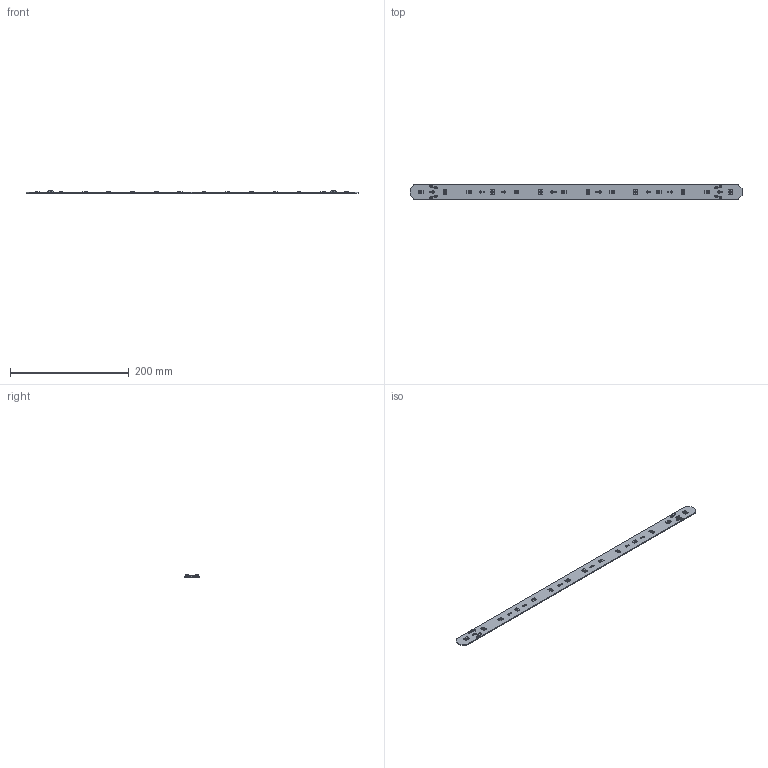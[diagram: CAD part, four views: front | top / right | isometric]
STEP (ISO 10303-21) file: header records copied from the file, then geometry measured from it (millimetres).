
FILE_DESCRIPTION(/* description */ ('Unknown'),/* implementation_level */ '2;1');
FILE_NAME(/* name */ 'LinLED 560x24mm 2200lm 4C 42V DAISY-7X1 sh-000 2025-10-21 ',/* time_stamp */ '2025-10-22T11:16:59+02:00',/* author */ ('Unknown'),/* organization */ ('Unknown'),/* preprocessor_version */ 'ST-DEVELOPER v18.102',/* originating_system */ 'Solid Edge',/* authorisation */ 'Unknown');
FILE_SCHEMA (('AUTOMOTIVE_DESIGN {1 0 10303 214 3 1 1}'));
Products named in the file (1): LinLED 560x24mm 2200lm 4C 42V DAISY-7X1 sh-000 2025-10-21 
Bounding box: 558 x 24 x 4.33 mm (x, y, z)
Volume: 21657.2 mm3; surface area: 29337 mm2
Topology: 1 solids, 1 shells, 2100 faces, 6148 edges, 4232 vertices
Faces by surface type: plane 1634, cylinder 408, bspline 32, sphere 18, torus 4, cone 4
Full cylindrical faces by diameter (mm): 1.25 x4, 2 x4, 2.1 x4, 3.4 x4
Entity records: 85389 total; most frequent: CARTESIAN_POINT 13975, ORIENTED_EDGE 12200, DIRECTION 11130, EDGE_CURVE 6100, LINE 4936, VECTOR 4936, VERTEX_POINT 4214, AXIS2_PLACEMENT_3D 3097
